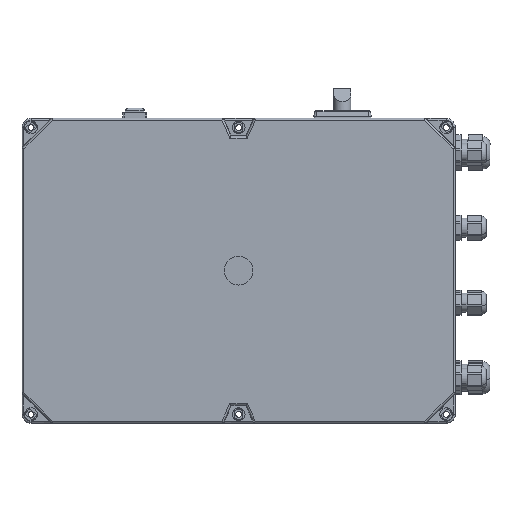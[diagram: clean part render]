
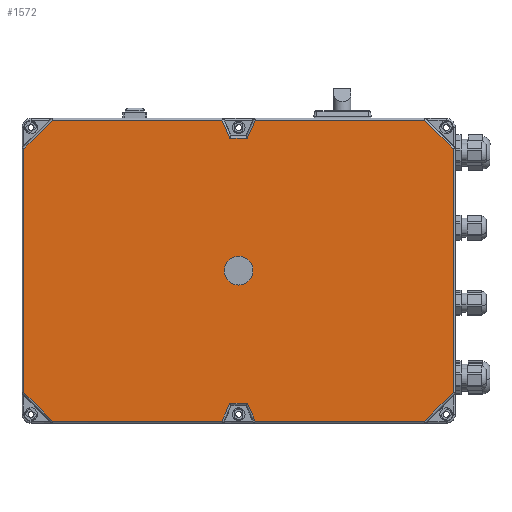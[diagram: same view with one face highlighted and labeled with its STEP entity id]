
A CAD part, top view. The second image highlights one B-rep face of the part: STEP entity #1572.
In plain terms, the highlighted planar face has unit normal (0, 0, 1) as drawn and (0, -1, 0) by its records, which use the part's own axes.
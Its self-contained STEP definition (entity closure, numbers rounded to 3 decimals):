
#212 = CARTESIAN_POINT ( 'NONE',  ( 231.103, -92., 20.806 ) ) ;
#993 = ORIENTED_EDGE ( 'NONE', *, *, #22991, .T. ) ;
#1051 = VERTEX_POINT ( 'NONE', #39046 ) ;
#1234 = LINE ( 'NONE', #16500, #53004 ) ;
#1375 = CARTESIAN_POINT ( 'NONE',  ( 174.421, -92., 286.421 ) ) ;
#1572 = ADVANCED_FACE ( 'NONE', ( #5191, #9704 ), #47497, .T. ) ;
#1706 = DIRECTION ( 'NONE',  ( 0., 0., -1. ) ) ;
#2071 = LINE ( 'NONE', #29200, #52250 ) ;
#2092 = EDGE_LOOP ( 'NONE', ( #19852, #36079 ) ) ;
#2286 = ORIENTED_EDGE ( 'NONE', *, *, #28992, .T. ) ;
#2444 = LINE ( 'NONE', #1375, #45420 ) ;
#2527 = EDGE_CURVE ( 'NONE', #24698, #42416, #26862, .T. ) ;
#2615 = VERTEX_POINT ( 'NONE', #47525 ) ;
#3481 = EDGE_CURVE ( 'NONE', #39595, #24698, #22253, .T. ) ;
#4886 = CIRCLE ( 'NONE', #55443, 12. ) ;
#5118 = CARTESIAN_POINT ( 'NONE',  ( 359.5, -92., -101.342 ) ) ;
#5191 = FACE_BOUND ( 'NONE', #2092, .T. ) ;
#5895 = CARTESIAN_POINT ( 'NONE',  ( 1.5, -92., 101.342 ) ) ;
#6457 = VECTOR ( 'NONE', #35543, 1000. ) ;
#7606 = VERTEX_POINT ( 'NONE', #31232 ) ;
#8113 = EDGE_CURVE ( 'NONE', #22539, #13286, #20100, .T. ) ;
#9704 = FACE_OUTER_BOUND ( 'NONE', #12551, .T. ) ;
#9944 = DIRECTION ( 'NONE',  ( 0., -1., 0. ) ) ;
#10023 = VERTEX_POINT ( 'NONE', #5118 ) ;
#10153 = DIRECTION ( 'NONE',  ( 0., 0., -1. ) ) ;
#10341 = CARTESIAN_POINT ( 'NONE',  ( 180.5, -92., 0. ) ) ;
#10715 = VECTOR ( 'NONE', #46836, 1000. ) ;
#10960 = DIRECTION ( 'NONE',  ( 0., -1., 0. ) ) ;
#11747 = EDGE_CURVE ( 'NONE', #14042, #58129, #57659, .T. ) ;
#12551 = EDGE_LOOP ( 'NONE', ( #38583, #56907, #34393, #57454, #993, #57908, #31979, #16321, #46119, #56287, #53067, #52501, #2286, #18501, #45966, #39450 ) ) ;
#13083 = VECTOR ( 'NONE', #46523, 1000. ) ;
#13211 = LINE ( 'NONE', #212, #48191 ) ;
#13252 = DIRECTION ( 'NONE',  ( -1., 0., 0. ) ) ;
#13286 = VERTEX_POINT ( 'NONE', #52758 ) ;
#13422 = CARTESIAN_POINT ( 'NONE',  ( 166.526, -92., 125.5 ) ) ;
#13899 = DIRECTION ( 'NONE',  ( 1., 0., 0. ) ) ;
#14042 = VERTEX_POINT ( 'NONE', #58010 ) ;
#14143 = CARTESIAN_POINT ( 'NONE',  ( 7.5, -92., -110.546 ) ) ;
#15024 = CARTESIAN_POINT ( 'NONE',  ( 73.481, -92., 148.623 ) ) ;
#15480 = CARTESIAN_POINT ( 'NONE',  ( 7.5, -92., -125.5 ) ) ;
#15497 = DIRECTION ( 'NONE',  ( 1., 0., 0. ) ) ;
#16321 = ORIENTED_EDGE ( 'NONE', *, *, #8113, .T. ) ;
#16500 = CARTESIAN_POINT ( 'NONE',  ( 1.5, -92., 119.5 ) ) ;
#16504 = CARTESIAN_POINT ( 'NONE',  ( 359.5, -92., 119.5 ) ) ;
#17086 = AXIS2_PLACEMENT_3D ( 'NONE', #36465, #39866, #35493 ) ;
#18028 = EDGE_CURVE ( 'NONE', #54392, #1051, #4886, .T. ) ;
#18215 = VERTEX_POINT ( 'NONE', #42507 ) ;
#18501 = ORIENTED_EDGE ( 'NONE', *, *, #49006, .T. ) ;
#18613 = VECTOR ( 'NONE', #43613, 1000. ) ;
#19200 = CARTESIAN_POINT ( 'NONE',  ( 173.127, -92., -110.546 ) ) ;
#19199 = DIRECTION ( 'NONE',  ( 1., 0., 0. ) ) ;
#19852 = ORIENTED_EDGE ( 'NONE', *, *, #18028, .F. ) ;
#20100 = LINE ( 'NONE', #14143, #32206 ) ;
#20410 = VERTEX_POINT ( 'NONE', #13422 ) ;
#21289 = VERTEX_POINT ( 'NONE', #24131 ) ;
#22253 = LINE ( 'NONE', #28987, #13083 ) ;
#22539 = VERTEX_POINT ( 'NONE', #19200 ) ;
#22585 = DIRECTION ( 'NONE',  ( -1., 0., 0. ) ) ;
#22991 = EDGE_CURVE ( 'NONE', #23612, #14042, #2071, .T. ) ;
#23592 = CARTESIAN_POINT ( 'NONE',  ( 7.5, -92., -125.5 ) ) ;
#23612 = VERTEX_POINT ( 'NONE', #25809 ) ;
#23912 = EDGE_CURVE ( 'NONE', #10023, #2615, #29404, .T. ) ;
#24131 = CARTESIAN_POINT ( 'NONE',  ( 194.474, -92., -125.5 ) ) ;
#24595 = CARTESIAN_POINT ( 'NONE',  ( 187.873, -92., 110.546 ) ) ;
#24698 = VERTEX_POINT ( 'NONE', #24595 ) ;
#25168 = CARTESIAN_POINT ( 'NONE',  ( 142.813, -92., 179.225 ) ) ;
#25809 = CARTESIAN_POINT ( 'NONE',  ( 1.5, -92., -101.342 ) ) ;
#26368 = EDGE_CURVE ( 'NONE', #43550, #23612, #1234, .T. ) ;
#26727 = LINE ( 'NONE', #25168, #28141 ) ;
#26858 = CARTESIAN_POINT ( 'NONE',  ( 7.5, -92., 125.5 ) ) ;
#26862 = LINE ( 'NONE', #45622, #38987 ) ;
#27000 = LINE ( 'NONE', #54548, #37670 ) ;
#28088 = CARTESIAN_POINT ( 'NONE',  ( 173.127, -92., 110.546 ) ) ;
#28141 = VECTOR ( 'NONE', #38708, 1000. ) ;
#28987 = CARTESIAN_POINT ( 'NONE',  ( 161.771, -92., 51.408 ) ) ;
#28992 = EDGE_CURVE ( 'NONE', #2615, #7606, #2444, .T. ) ;
#29200 = CARTESIAN_POINT ( 'NONE',  ( -105.921, -92., 6.079 ) ) ;
#29404 = LINE ( 'NONE', #16504, #18613 ) ;
#31232 = CARTESIAN_POINT ( 'NONE',  ( 335.342, -92., 125.5 ) ) ;
#31299 = CARTESIAN_POINT ( 'NONE',  ( 7.5, -92., 119.5 ) ) ;
#31884 = CARTESIAN_POINT ( 'NONE',  ( 335.342, -92., -125.5 ) ) ;
#31979 = ORIENTED_EDGE ( 'NONE', *, *, #56642, .T. ) ;
#32206 = VECTOR ( 'NONE', #13899, 1000. ) ;
#32289 = DIRECTION ( 'NONE',  ( 0.404, 0., 0.915 ) ) ;
#34393 = ORIENTED_EDGE ( 'NONE', *, *, #58171, .T. ) ;
#35016 = LINE ( 'NONE', #51484, #10715 ) ;
#35142 = CARTESIAN_POINT ( 'NONE',  ( 166.526, -92., -125.5 ) ) ;
#35493 = DIRECTION ( 'NONE',  ( 0., 0., -1. ) ) ;
#35543 = DIRECTION ( 'NONE',  ( -0.707, 0., -0.707 ) ) ;
#36079 = ORIENTED_EDGE ( 'NONE', *, *, #40362, .F. ) ;
#36465 = CARTESIAN_POINT ( 'NONE',  ( 180.5, -92., 0. ) ) ;
#37625 = VERTEX_POINT ( 'NONE', #31884 ) ;
#37670 = VECTOR ( 'NONE', #22585, 1000. ) ;
#38583 = ORIENTED_EDGE ( 'NONE', *, *, #51489, .T. ) ;
#38708 = DIRECTION ( 'NONE',  ( -0.404, 0., 0.915 ) ) ;
#38987 = VECTOR ( 'NONE', #47205, 1000. ) ;
#39046 = CARTESIAN_POINT ( 'NONE',  ( 180.5, -92., 12. ) ) ;
#39450 = ORIENTED_EDGE ( 'NONE', *, *, #2527, .T. ) ;
#39595 = VERTEX_POINT ( 'NONE', #44127 ) ;
#39866 = DIRECTION ( 'NONE',  ( 0., -1., 0. ) ) ;
#40362 = EDGE_CURVE ( 'NONE', #1051, #54392, #58908, .T. ) ;
#40595 = LINE ( 'NONE', #26858, #52783 ) ;
#41318 = EDGE_CURVE ( 'NONE', #13286, #21289, #45842, .T. ) ;
#42416 = VERTEX_POINT ( 'NONE', #28088 ) ;
#42507 = CARTESIAN_POINT ( 'NONE',  ( 25.658, -92., 125.5 ) ) ;
#43003 = LINE ( 'NONE', #49278, #6457 ) ;
#43550 = VERTEX_POINT ( 'NONE', #5895 ) ;
#43613 = DIRECTION ( 'NONE',  ( 0., 0., 1. ) ) ;
#44127 = CARTESIAN_POINT ( 'NONE',  ( 194.474, -92., 125.5 ) ) ;
#44419 = VECTOR ( 'NONE', #46965, 1000. ) ;
#45420 = VECTOR ( 'NONE', #58841, 1000. ) ;
#45622 = CARTESIAN_POINT ( 'NONE',  ( 7.5, -92., 110.546 ) ) ;
#45842 = LINE ( 'NONE', #15024, #44419 ) ;
#45966 = ORIENTED_EDGE ( 'NONE', *, *, #3481, .T. ) ;
#46119 = ORIENTED_EDGE ( 'NONE', *, *, #41318, .T. ) ;
#46523 = DIRECTION ( 'NONE',  ( -0.404, 0., -0.915 ) ) ;
#46836 = DIRECTION ( 'NONE',  ( 0.707, 0., 0.707 ) ) ;
#46839 = VECTOR ( 'NONE', #19199, 1000. ) ;
#46965 = DIRECTION ( 'NONE',  ( 0.404, 0., -0.915 ) ) ;
#47205 = DIRECTION ( 'NONE',  ( -1., 0., 0. ) ) ;
#47497 = PLANE ( 'NONE',  #50045 ) ;
#47525 = CARTESIAN_POINT ( 'NONE',  ( 359.5, -92., 101.342 ) ) ;
#48191 = VECTOR ( 'NONE', #32289, 1000. ) ;
#48207 = DIRECTION ( 'NONE',  ( 0.707, 0., -0.707 ) ) ;
#48270 = LINE ( 'NONE', #23592, #46839 ) ;
#48508 = EDGE_CURVE ( 'NONE', #20410, #18215, #40595, .T. ) ;
#49006 = EDGE_CURVE ( 'NONE', #7606, #39595, #27000, .T. ) ;
#49278 = CARTESIAN_POINT ( 'NONE',  ( 13.579, -92., 113.421 ) ) ;
#50045 = AXIS2_PLACEMENT_3D ( 'NONE', #31299, #9944, #56282 ) ;
#50184 = EDGE_CURVE ( 'NONE', #21289, #37625, #48270, .T. ) ;
#51484 = CARTESIAN_POINT ( 'NONE',  ( 293.921, -92., -166.921 ) ) ;
#51489 = EDGE_CURVE ( 'NONE', #42416, #20410, #26727, .T. ) ;
#52250 = VECTOR ( 'NONE', #48207, 1000. ) ;
#52501 = ORIENTED_EDGE ( 'NONE', *, *, #23912, .T. ) ;
#52758 = CARTESIAN_POINT ( 'NONE',  ( 187.873, -92., -110.546 ) ) ;
#52783 = VECTOR ( 'NONE', #13252, 1000. ) ;
#53004 = VECTOR ( 'NONE', #1706, 1000. ) ;
#53067 = ORIENTED_EDGE ( 'NONE', *, *, #53435, .T. ) ;
#53435 = EDGE_CURVE ( 'NONE', #37625, #10023, #35016, .T. ) ;
#54392 = VERTEX_POINT ( 'NONE', #55526 ) ;
#54548 = CARTESIAN_POINT ( 'NONE',  ( 7.5, -92., 125.5 ) ) ;
#54826 = VECTOR ( 'NONE', #15497, 1000. ) ;
#55443 = AXIS2_PLACEMENT_3D ( 'NONE', #10341, #10960, #10153 ) ;
#55526 = CARTESIAN_POINT ( 'NONE',  ( 180.5, -92., -12. ) ) ;
#56282 = DIRECTION ( 'NONE',  ( 0., 0., -1. ) ) ;
#56287 = ORIENTED_EDGE ( 'NONE', *, *, #50184, .T. ) ;
#56642 = EDGE_CURVE ( 'NONE', #58129, #22539, #13211, .T. ) ;
#56907 = ORIENTED_EDGE ( 'NONE', *, *, #48508, .T. ) ;
#57454 = ORIENTED_EDGE ( 'NONE', *, *, #26368, .T. ) ;
#57659 = LINE ( 'NONE', #15480, #54826 ) ;
#57908 = ORIENTED_EDGE ( 'NONE', *, *, #11747, .T. ) ;
#58010 = CARTESIAN_POINT ( 'NONE',  ( 25.658, -92., -125.5 ) ) ;
#58129 = VERTEX_POINT ( 'NONE', #35142 ) ;
#58171 = EDGE_CURVE ( 'NONE', #18215, #43550, #43003, .T. ) ;
#58841 = DIRECTION ( 'NONE',  ( -0.707, 0., 0.707 ) ) ;
#58908 = CIRCLE ( 'NONE', #17086, 12. ) ;
